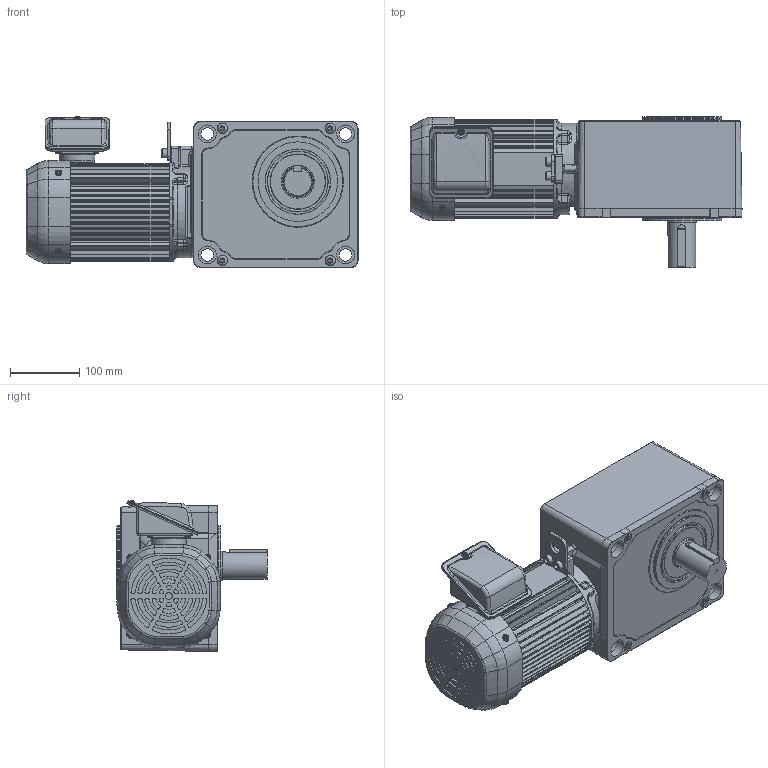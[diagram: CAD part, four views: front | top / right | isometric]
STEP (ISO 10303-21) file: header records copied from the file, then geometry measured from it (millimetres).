
FILE_DESCRIPTION( ( 'Unknown' ), '1' );
FILE_NAME( 'X:/gear/gm/3D-WEB/IE3/SHYP/ﾊﾟｰﾂ/完成品/shypfrr_075_80-240.stp', 'Unknown', ( 'Unknown' ), ( 'Unknown' ), 'PSStep 14.0', 'Unknown', ' ' );
FILE_SCHEMA( ( 'AUTOMOTIVE_DESIGN { 1 0 10303 214 1 1 1 1 }' ) );
Length unit declared in the file: millimetre
Products named in the file (2): 六角穴付ボルト(M8X16)
Bounding box: 480 x 217 x 218.62 mm (x, y, z)
Volume: 10021447.6 mm3; surface area: 707774.9 mm2
Topology: 2 solids, 30 shells, 1687 faces, 4147 edges, 2625 vertices
Faces by surface type: cylinder 718, plane 654, torus 114, cone 106, bspline 76, sphere 19
Full cylindrical faces by diameter (mm): 3.8 x6, 4.134 x4, 4.2 x8, 4.5 x8, 4.8 x1, 4.917 x1, 5.5 x4, 5.6 x1, 5.8 x4, 6 x8, 6.2 x1, 6.647 x6, 6.8 x2, 7 x5, 8 x8, 8.8 x4, 10 x8, 13 x2, 14 x4, 15 x4, 18 x4, 20 x1, 23 x1, 25 x3, 26 x8, 28.6 x1, 40 x1, 42 x1, 42.1 x1, 48 x2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
Entity records: 76313 total; most frequent: CARTESIAN_POINT 23486, DIRECTION 8675, ORIENTED_EDGE 7650, EDGE_CURVE 3825, AXIS2_PLACEMENT_3D 3408, VERTEX_POINT 2553, EDGE_LOOP 2057, LINE 1859
